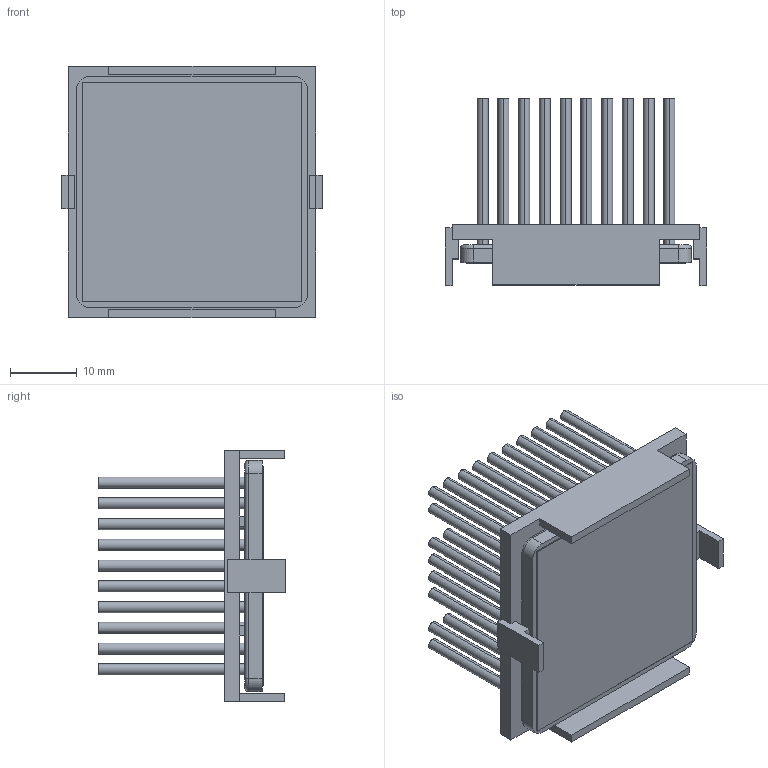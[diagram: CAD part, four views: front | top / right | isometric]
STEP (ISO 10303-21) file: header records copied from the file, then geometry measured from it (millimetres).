
FILE_DESCRIPTION (( 'STEP AP214' ), '1' );
FILE_NAME ('INM35002-25P-2.6Y.STEP', '2023-02-21T00:00:04', ( '' ), ( '' ), 'SwSTEP 2.0', 'SolidWorks 2020', '' );
FILE_SCHEMA (( 'AUTOMOTIVE_DESIGN' ));
Length unit declared in the file: inch
Products named in the file (1): INM35002-25P-2.6Y
Bounding box: 39.2 x 28.1 x 37.7 mm (x, y, z)
Volume: 9472.5 mm3; surface area: 18282.7 mm2
Topology: 3 solids, 3 shells, 358 faces, 772 edges, 512 vertices
Faces by surface type: cylinder 192, plane 162, torus 4
Entity records: 14600 total; most frequent: DIRECTION 1878, CARTESIAN_POINT 1643, ORIENTED_EDGE 1544, EDGE_CURVE 772, AXIS2_PLACEMENT_3D 747, VERTEX_POINT 512, EDGE_LOOP 452, CIRCLE 388
